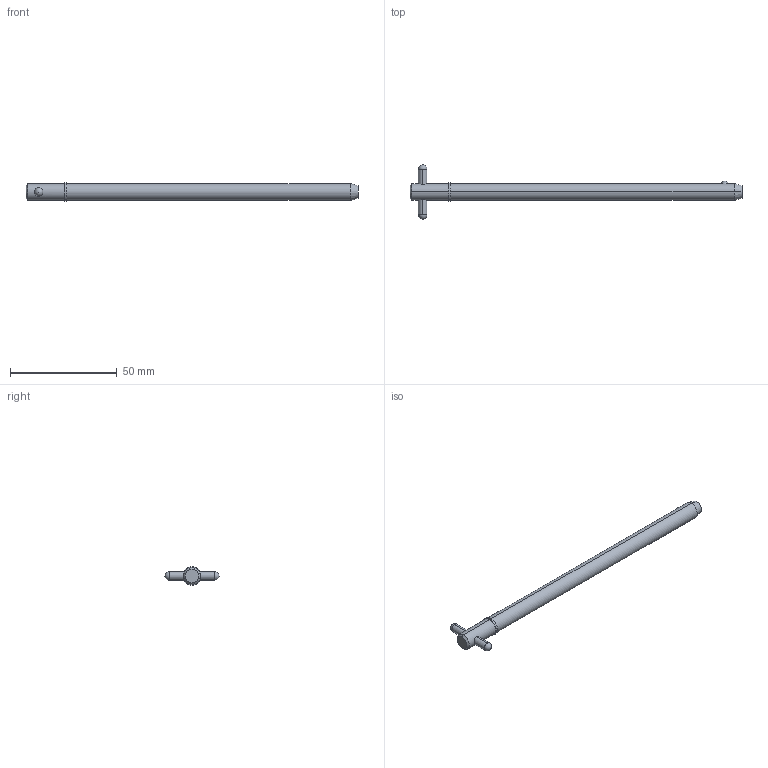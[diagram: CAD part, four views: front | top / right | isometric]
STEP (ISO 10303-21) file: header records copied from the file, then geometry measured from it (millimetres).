
FILE_DESCRIPTION (( 'STEP AP203' ), '1' );
FILE_NAME ('33018.W3150.step', '2024-11-19T17:10:22', ( '' ), ( '' ), 'SwSTEP 2.0', 'SolidWorks 2019', '' );
FILE_SCHEMA (( 'CONFIG_CONTROL_DESIGN' ));
Length unit declared in the file: millimetre
Products named in the file (3): Part1_33018.W3150; 33018.W3150; Part2_33018.W3150
Assembly tree (2 placements, depth 2):
  33018.W3150
    Part1_33018.W3150
    Part2_33018.W3150
Bounding box: 155.58 x 25.4 x 8.73 mm (x, y, z)
Volume: 7869.6 mm3; surface area: 4347.9 mm2
Topology: 2 solids, 2 shells, 22 faces, 47 edges, 30 vertices
Faces by surface type: cylinder 10, sphere 4, cone 4, plane 4
Entity records: 1013 total; most frequent: CARTESIAN_POINT 256, DIRECTION 110, ORIENTED_EDGE 82, AXIS2_PLACEMENT_3D 48, EDGE_CURVE 41, EDGE_LOOP 27, PERSON_AND_ORGANIZATION 26, VERTEX_POINT 26
